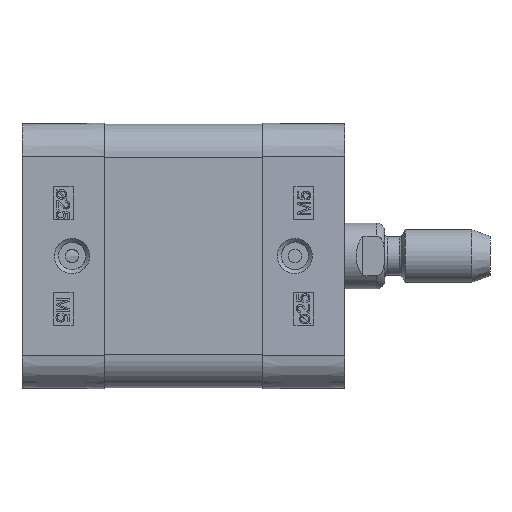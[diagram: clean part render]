
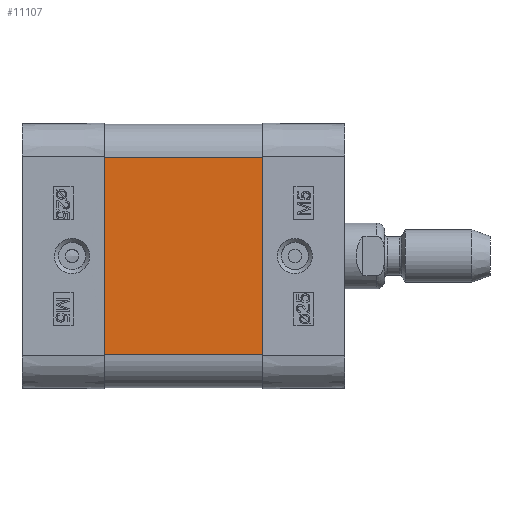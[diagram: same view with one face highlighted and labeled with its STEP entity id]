
A CAD part, left-side view. The second image highlights one B-rep face of the part: STEP entity #11107.
In plain terms, the highlighted planar face has unit normal (-1, 0, 0).
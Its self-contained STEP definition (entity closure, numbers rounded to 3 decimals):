
#8889=CARTESIAN_POINT('',(-20.,-24.,15.0));
#8890=VERTEX_POINT('',#8889);
#8898=CARTESIAN_POINT('',(-20.,-24.,-15.));
#8899=VERTEX_POINT('',#8898);
#8900=CARTESIAN_POINT('',(-20.,-24.,-15.));
#8901=DIRECTION('',(0.0,0.0,1.0));
#8902=VECTOR('',#8901,30.);
#8903=LINE('',#8900,#8902);
#8904=EDGE_CURVE('',#8899,#8890,#8903,.T.);
#10035=CARTESIAN_POINT('',(-20.,0.0,15.0));
#10036=VERTEX_POINT('',#10035);
#10044=CARTESIAN_POINT('',(-20.,0.0,15.0));
#10045=DIRECTION('',(0.0,-1.0,0.0));
#10046=VECTOR('',#10045,24.);
#10047=LINE('',#10044,#10046);
#10048=EDGE_CURVE('',#10036,#8890,#10047,.T.);
#11072=CARTESIAN_POINT('',(-20.,0.0,-15.));
#11073=VERTEX_POINT('',#11072);
#11074=CARTESIAN_POINT('',(-20.,0.0,-15.));
#11075=DIRECTION('',(0.0,-1.0,0.0));
#11076=VECTOR('',#11075,24.);
#11077=LINE('',#11074,#11076);
#11078=EDGE_CURVE('',#11073,#8899,#11077,.T.);
#11091=CARTESIAN_POINT('',(-20.,0.0,-15.));
#11092=DIRECTION('',(-1.0,0.0,0.0));
#11093=DIRECTION('',(0.0,0.0,1.0));
#11094=AXIS2_PLACEMENT_3D('',#11091,#11092,#11093);
#11095=PLANE('',#11094);
#11096=ORIENTED_EDGE('',*,*,#8904,.T.);
#11097=ORIENTED_EDGE('',*,*,#10048,.F.);
#11098=CARTESIAN_POINT('',(-20.,0.0,-15.));
#11099=DIRECTION('',(0.0,0.0,1.0));
#11100=VECTOR('',#11099,30.);
#11101=LINE('',#11098,#11100);
#11102=EDGE_CURVE('',#11073,#10036,#11101,.T.);
#11103=ORIENTED_EDGE('',*,*,#11102,.F.);
#11104=ORIENTED_EDGE('',*,*,#11078,.T.);
#11105=EDGE_LOOP('',(#11096,#11097,#11103,#11104));
#11106=FACE_OUTER_BOUND('',#11105,.T.);
#11107=ADVANCED_FACE('',(#11106),#11095,.T.);
